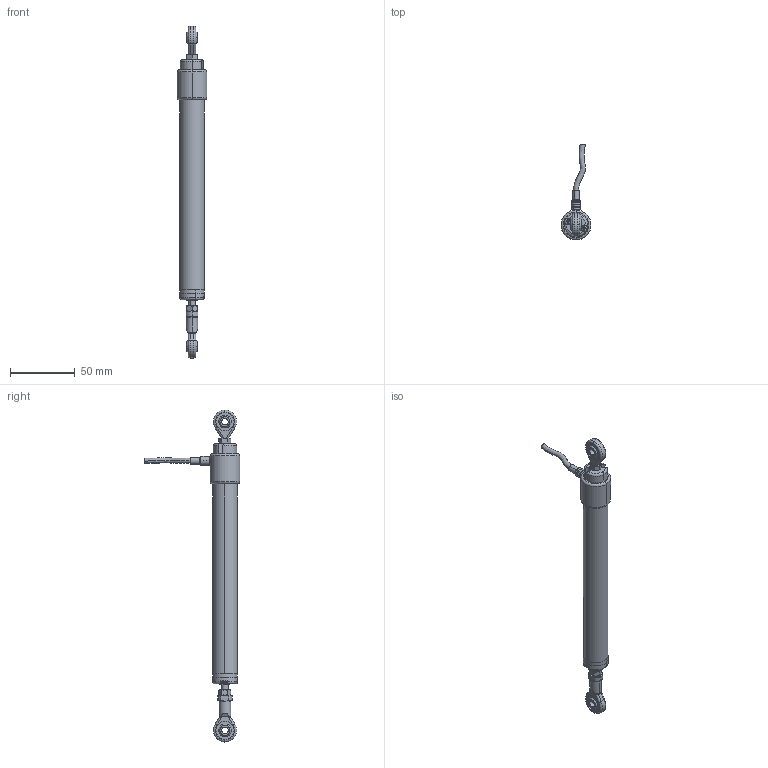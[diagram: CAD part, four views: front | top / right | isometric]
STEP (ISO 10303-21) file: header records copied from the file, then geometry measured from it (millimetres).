
FILE_DESCRIPTION (( 'STEP AP203' ), '1' );
FILE_NAME ('PZ34-A-100.STEP', '2016-05-16T16:57:35', ( '' ), ( '' ), 'SwSTEP 2.0', 'SolidWorks 2015', '' );
FILE_SCHEMA (( 'CONFIG_CONTROL_DESIGN' ));
Length unit declared in the file: millimetre
Products named in the file (17): SND004-2; BENZING_Lock washer DIN 6799 - 3.2; SND004-1X; MIM815X_ISO 7045 - M2.5 x 8 - Z --- 8S; SND004X; TES103X; SND005-2; TES110X; SND005-1X; TES112X; SND005X; MIM205X_MIM205; PZ34-A-100; Termor-PME-V2X; CUS-PZ34-A-100; PMEV2 cavoX; ALB-PZ34-A-100
Assembly tree (20 placements, depth 3):
  PZ34-A-100
    CUS-PZ34-A-100
    ALB-PZ34-A-100
    BENZING_Lock washer DIN 6799 - 3.2
    MIM815X_ISO 7045 - M2.5 x 8 - Z --- 8S  x4
    TES103X
    TES110X
    TES112X
    MIM205X_MIM205  x2
    Termor-PME-V2X
    PMEV2 cavoX
    SND004X
      SND004-2
      SND004-1X
    SND005X
      SND005-2
      SND005-1X
Bounding box: 23 x 73.75 x 255.5 mm (x, y, z)
Volume: 65110.9 mm3; surface area: 26197.1 mm2
Topology: 18 solids, 18 shells, 1270 faces, 3231 edges, 1994 vertices
Faces by surface type: cone 620, cylinder 397, plane 168, torus 49, bspline 20, sphere 16
Entity records: 22839 total; most frequent: CARTESIAN_POINT 4809, DIRECTION 3768, ORIENTED_EDGE 3234, EDGE_CURVE 1617, AXIS2_PLACEMENT_3D 1584, VERTEX_POINT 1007, CIRCLE 923, EDGE_LOOP 700
